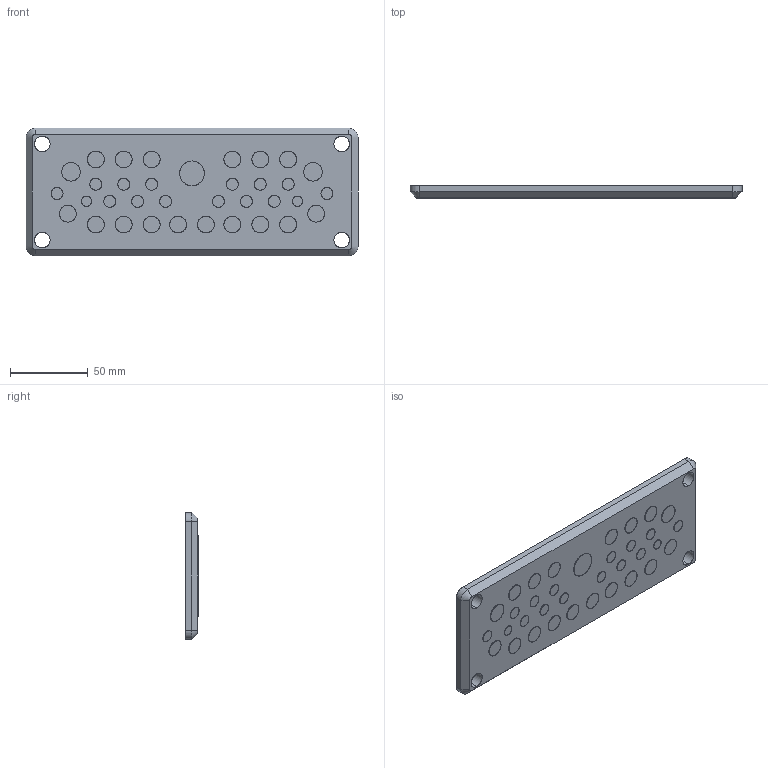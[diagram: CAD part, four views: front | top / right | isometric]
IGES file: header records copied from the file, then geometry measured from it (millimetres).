
Start section: SolidWorks IGES file using analytic representation for surfaces
Global section: file name: C:\Solidworks\omat tuotteet\Space charge models\Multigate\ip54 LMC\IGES\100241.IGS; native system: SolidWorks 2012; preprocessor: SolidWorks 2012; author: joni.lehtonen; date: 121212.101542; units: millimetre
Bounding box: 214 x 8.3 x 82 mm (x, y, z)
Surface area: 46855.6 mm2 (no closed solid volume)
Topology: 0 solids, 0 shells, 236 faces, 5464 edges, 5464 vertices
Faces by surface type: revolution 156, bspline 80
